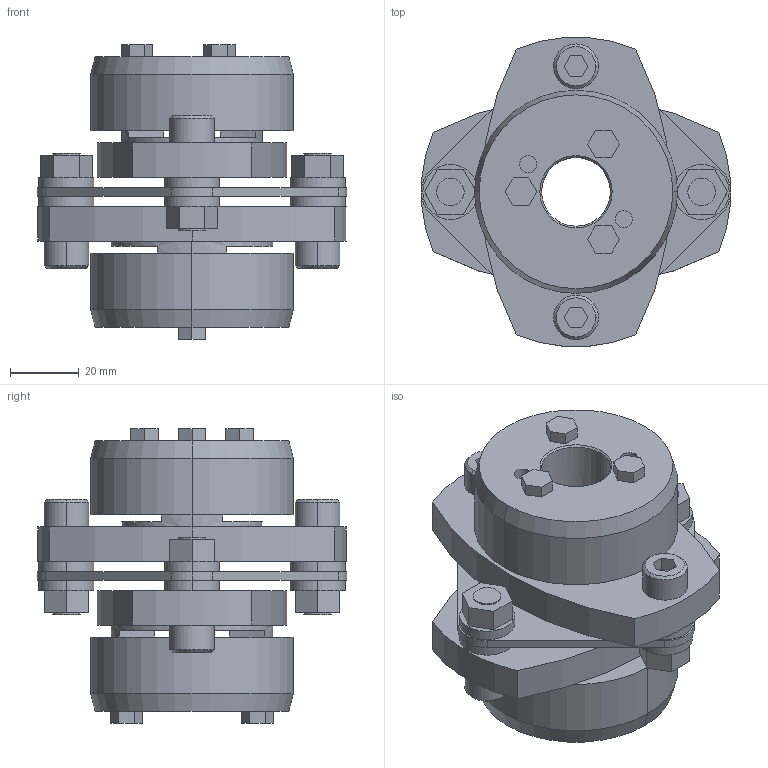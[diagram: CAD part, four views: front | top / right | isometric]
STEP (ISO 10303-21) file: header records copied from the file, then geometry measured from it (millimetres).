
FILE_DESCRIPTION((''),'2;1');
FILE_NAME('LCS-90T7-20×25.stp','2011-09-09T09:57:16',(''),(''),'AutoCAD STEP 2000i','AutoCAD 2000i',', , ');
FILE_SCHEMA(('CONFIG_CONTROL_DESIGN'));
Length unit declared in the file: millimetre
Products named in the file (8): LCS-90T7-19×25; 忣兜1; LC90T7-T025; LC90T7-T019-1; LC90T7-T019; LC90-B019-1; LC90-B019; LCS90-ITA
Assembly tree (7 placements, depth 2):
  LCS-90T7-19×25
    忣兜1
    LC90T7-T025
    LC90T7-T019-1
    LC90T7-T019
    LC90-B019-1
    LC90-B019
    LCS90-ITA
Bounding box: 90 x 89.94 x 85.5 mm (x, y, z)
Volume: 201229.1 mm3; surface area: 52160.9 mm2
Topology: 1 solids, 1 shells, 225 faces, 550 edges, 360 vertices
Faces by surface type: plane 125, cylinder 80, cone 20
Entity records: 6869 total; most frequent: DIRECTION 1212, CARTESIAN_POINT 1143, ORIENTED_EDGE 1100, EDGE_CURVE 550, AXIS2_PLACEMENT_3D 429, VERTEX_POINT 360, VECTOR 354, LINE 354
